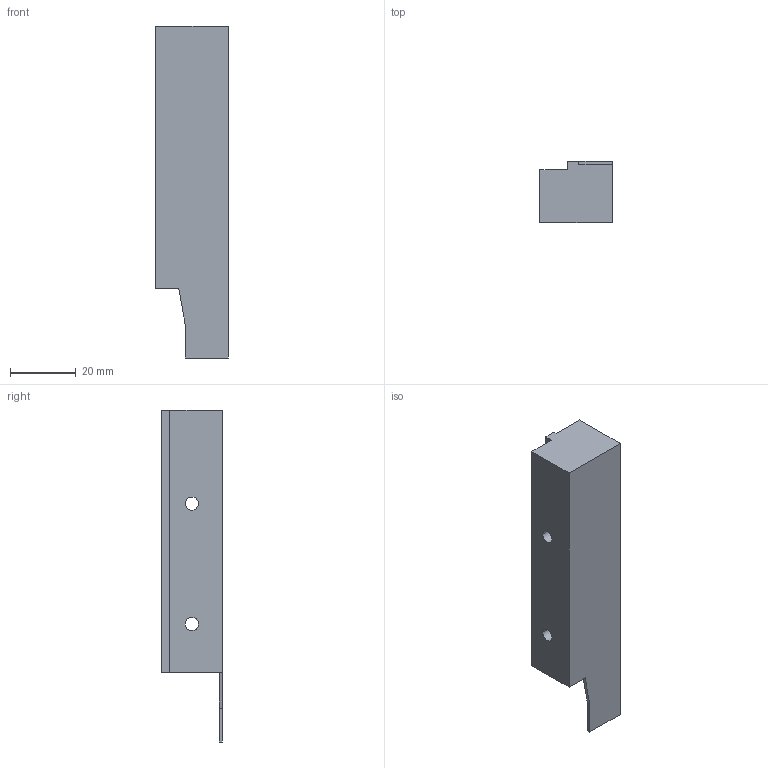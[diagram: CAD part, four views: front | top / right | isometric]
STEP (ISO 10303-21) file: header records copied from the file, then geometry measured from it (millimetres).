
FILE_DESCRIPTION (( 'STEP AP214' ), '1' );
FILE_NAME ('DWD-XP_Holzrueckwandadapter links H118 geschlossen.step', '2010-09-27T15:14:16', ( 'grass' ), ( '' ), 'SwSTEP 2.0', 'SolidWorks 2010', '' );
FILE_SCHEMA (( 'AUTOMOTIVE_DESIGN' ));
Length unit declared in the file: millimetre
Products named in the file (1): DWD-XP_Holzrueckwandadapter links H118 geschlossen
Bounding box: 22 x 18.5 x 101 mm (x, y, z)
Volume: 17105.2 mm3; surface area: 8692 mm2
Topology: 1 solids, 1 shells, 31 faces, 87 edges, 58 vertices
Faces by surface type: plane 23, cylinder 8
Entity records: 1047 total; most frequent: CARTESIAN_POINT 177, ORIENTED_EDGE 174, DIRECTION 167, EDGE_CURVE 87, VECTOR 71, LINE 71, VERTEX_POINT 58, AXIS2_PLACEMENT_3D 48
